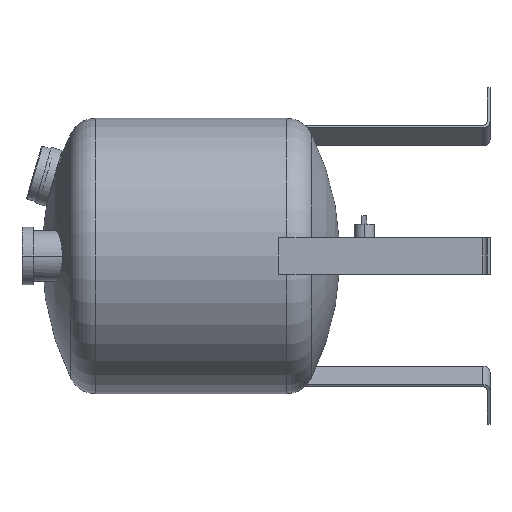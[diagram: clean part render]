
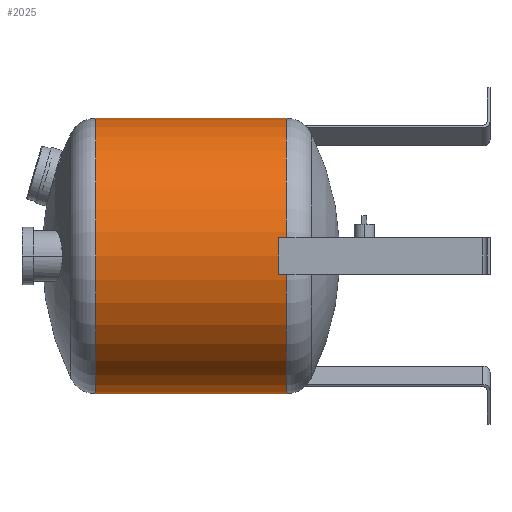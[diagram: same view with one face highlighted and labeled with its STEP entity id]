
A CAD part, left-side view. The second image highlights one B-rep face of the part: STEP entity #2025.
In plain terms, the highlighted cylindrical face has radius 150 mm (diameter 300 mm), a partial arc.
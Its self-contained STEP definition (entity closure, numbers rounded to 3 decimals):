
#67=CARTESIAN_POINT('',(0.,71.805,0.));
#68=DIRECTION('',(0.,-1.,0.));
#69=DIRECTION('',(0.,0.,1.));
#70=AXIS2_PLACEMENT_3D('',#67,#68,#69);
#72=CARTESIAN_POINT('',(0.,279.868,0.));
#73=DIRECTION('',(0.,-1.,0.));
#74=DIRECTION('',(0.,0.,1.));
#75=AXIS2_PLACEMENT_3D('',#72,#73,#74);
#326=DIRECTION('',(0.,1.,0.));
#327=VECTOR('',#326,208.062);
#328=CARTESIAN_POINT('',(0.,71.805,150.));
#329=LINE('',#328,#327);
#330=DIRECTION('',(0.,1.,0.));
#331=VECTOR('',#330,208.062);
#332=CARTESIAN_POINT('',(0.,71.805,-150.));
#333=LINE('',#332,#331);
#1663=CARTESIAN_POINT('',(0.,71.805,150.));
#1664=VERTEX_POINT('',#1663);
#1665=CARTESIAN_POINT('',(0.,279.868,150.));
#1666=VERTEX_POINT('',#1665);
#1687=CARTESIAN_POINT('',(0.,71.805,-150.));
#1688=VERTEX_POINT('',#1687);
#1689=CARTESIAN_POINT('',(0.,279.868,-150.));
#1690=VERTEX_POINT('',#1689);
#2011=CARTESIAN_POINT('',(0.,354.9,0.));
#2012=DIRECTION('',(0.,-1.,0.));
#2013=DIRECTION('',(0.,0.,-1.));
#2014=AXIS2_PLACEMENT_3D('',#2011,#2012,#2013);
#2015=CYLINDRICAL_SURFACE('',#2014,150.);
#2017=ORIENTED_EDGE('',*,*,#2016,.F.);
#2018=ORIENTED_EDGE('',*,*,#2006,.T.);
#2020=ORIENTED_EDGE('',*,*,#2019,.T.);
#2022=ORIENTED_EDGE('',*,*,#2021,.F.);
#2023=EDGE_LOOP('',(#2017,#2018,#2020,#2022));
#2024=FACE_OUTER_BOUND('',#2023,.F.);
#71=CIRCLE('',#70,150.);
#76=CIRCLE('',#75,150.);
#2006=EDGE_CURVE('',#1664,#1688,#71,.T.);
#2016=EDGE_CURVE('',#1664,#1666,#329,.T.);
#2019=EDGE_CURVE('',#1688,#1690,#333,.T.);
#2021=EDGE_CURVE('',#1666,#1690,#76,.T.);
#2025=ADVANCED_FACE('',(#2024),#2015,.T.);
